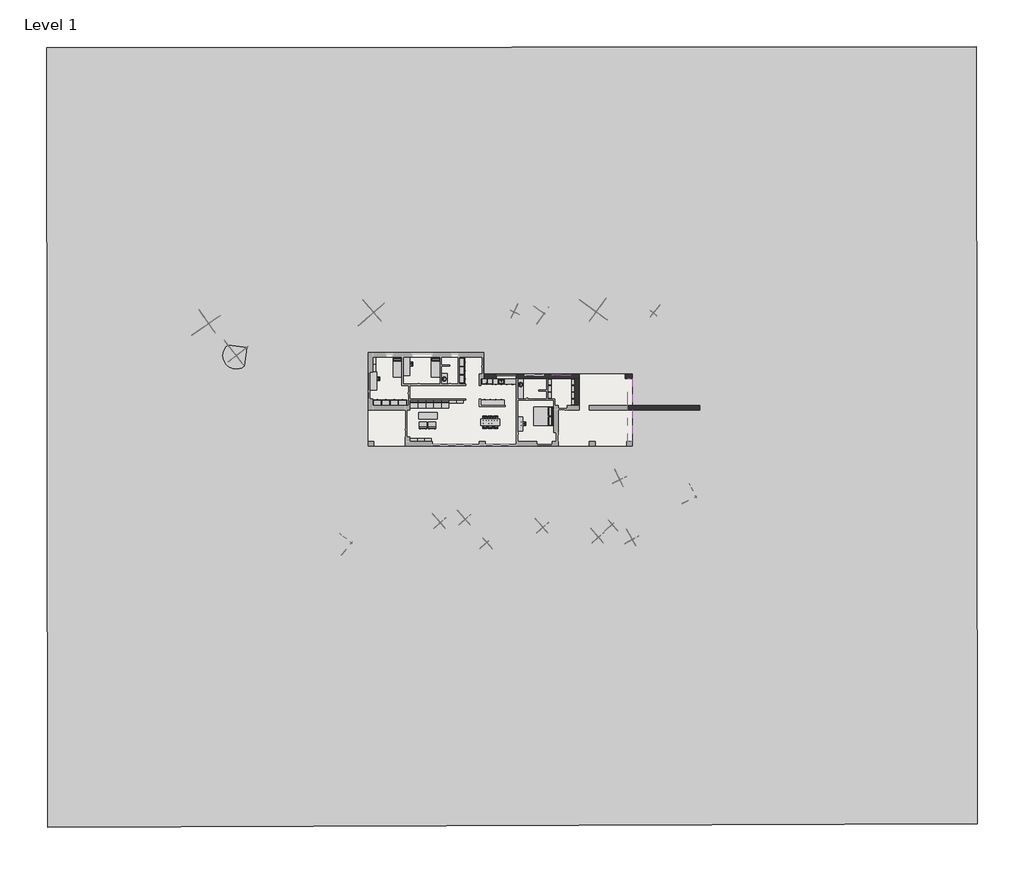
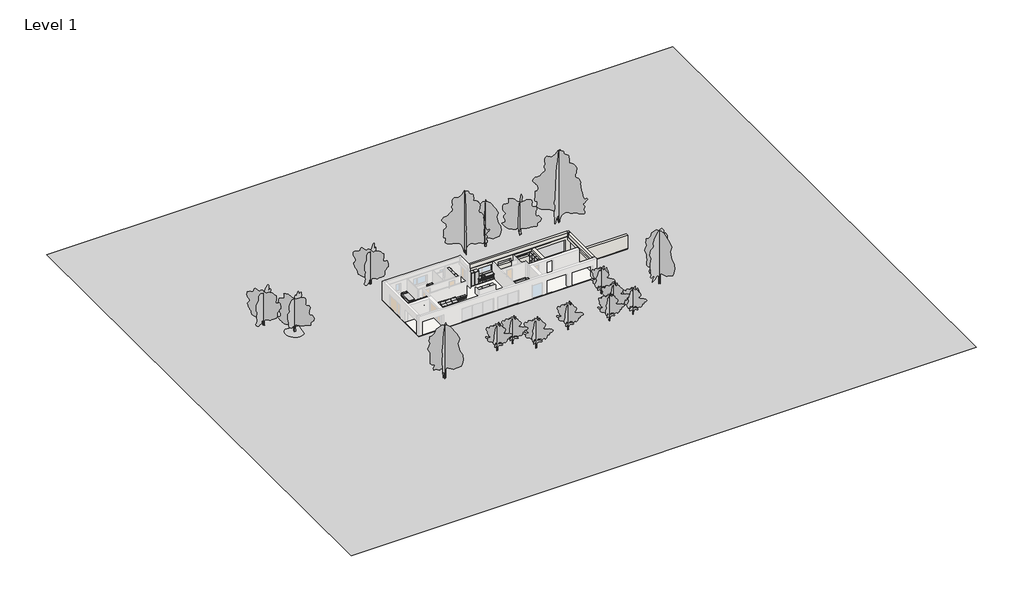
# One storey, part 2 of 2: 65 furniture elements, 17 geographic elements, 4 walls, 3 flow terminals, 1 proxy, 1 slab, 1 window.
"""IFC4 building model written with IfcOpenShell, lengths in millimetres."""

from ifc_helpers import new_model, si_unit, frame, origin, origin_with_axes, place, context, project, spatial, polyline, outline, extrude, faceted_brep, triangles, transform, mapped, element, save
from components import sink_kitchen_single_600_x_535mm_f0c6929d, sink_vanity_round_482_x_482mm_621b7b9b, furniture_c7f23c1d, furniture_56f83323, furniture_641ccf10, furniture_1500_x_500mm_231fc5f9, furniture_1900_x_700mm_ac9d8d07, furniture_2000_x_700mm_040c55c5, furniture_2000_x_700mm_sofa_1e09125b, furniture_700_x_300_x_2200mm_207dd1db, furniture_750_x_300_x_450mm_957a72fb, furniture_750_x_300_x_700mm_660817c4, base_cabinet_4_drawers_600_mm_7743cde6, base_cabinet_4_drawers_600_mm_75a3c887, bed_box_2000_x_2100mm_5f007bae, bed_standard_2100_x_900mm_af0b1266, couch_straight_module_couch_straight_module_fcc397ea, counter_top_counter_top_fbe04672, counter_top_w_sink_counter_top_w_sink_1a22a961, front_plain_front_plain_37046411, front_plain_front_plain_e6c80844, front_plain_front_plain_2_fe2e9d0c, plinth_164mm_a440ec44, plinth_164mm_10810e33, tall_cabinet_double_door_900_mm_12ca9f50, tall_cabinet_single_door_600_mm_6a825e10, vanity_counter_top_w_round_sink_hole_600mm_depth_ba51d22c, vanity_counter_top_w_round_sink_hole_600mm_depth_d806985c, rpc_tree_deciduous_american_beech_6_0_meters_be49fed4, rpc_tree_deciduous_japanese_cherry_4_5_meters_cd2ce576, rpc_tree_deciduous_japanese_cherry_5_meters_cd988bd5, rpc_tree_deciduous_lombardy_poplar_10_5_meters_a89ac7ab, rpc_tree_deciduous_lombardy_poplar_12_2_meters_e292760b, rpc_tree_deciduous_red_ash_2_4b385689, rpc_tree_deciduous_red_ash_7_6_meters_16c8020d, single_light_top_hinged_1920x600_dd11e4f9

model = new_model("IFC4")

# Units and contexts
model_context = context("Model", 3, world=origin())
ifc_project = project(units=[si_unit("LENGTHUNIT", "METRE", prefix="MILLI")], contexts=[model_context])

# Site, building, storey
site = spatial("IfcSite", under=ifc_project)
building = spatial("IfcBuilding", under=site)
storey = spatial("IfcBuildingStorey", under=building, Name="Level 1", Elevation=0.0)

# Proxy
placement = place(None, origin())
element("IfcBuildingElementProxy", 1, Name="Building Element Proxy", at=placement, inside=storey, context=model_context, shape_type="Tessellation", body=[
    triangles([(-34365.77677, 42576.5825684, -100.0000008), (64971.4109619, 42696.1241089, -100.0000008), (65090.9525024, -40383.7164185, -100.0000008), (-34246.2375549, -40742.3317383, -100.0000008)], [[1, 4, 3], [3, 2, 1]], closed=False),
])

# Flow terminals
sink_kitchen_single_600_x_535mm_shape = sink_kitchen_single_600_x_535mm_f0c6929d(model_context)
element("IfcFlowTerminal", 2, ObjectType="Sink Kitchen-Single : 600 x 535mm", at=placement, inside=storey, context=model_context, shape_type="MappedRepresentation", body=[
    mapped(sink_kitchen_single_600_x_535mm_shape, transform((14204.3107594, 6884.4545989, 0.0), x_axis=(1.0, 0.0, 0.0), y_axis=(0.0, 1.0, 0.0), z_axis=(0.0, 0.0, 1.0))),
])
sink_vanity_round_482_x_482mm_shape = sink_vanity_round_482_x_482mm_621b7b9b(model_context)
element("IfcFlowTerminal", 3, ObjectType="Sink Vanity - Round : 482 x 482mm", at=placement, inside=storey, context=model_context, shape_type="MappedRepresentation", body=[
    mapped(sink_vanity_round_482_x_482mm_shape, transform((16358.3901141, 6444.5531607, 0.0), x_axis=(0.0, 1.0, 0.0), y_axis=(-1.0, 0.0, 0.0), z_axis=(0.0, 0.0, 1.0))),
])
element("IfcFlowTerminal", 4, ObjectType="Sink Vanity - Round : 482 x 482mm", at=placement, inside=storey, context=model_context, shape_type="MappedRepresentation", body=[
    mapped(sink_vanity_round_482_x_482mm_shape, transform((8199.0351087, 7049.1198202, 0.0), x_axis=(0.0, 1.0000000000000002, 0.0), y_axis=(-1.0000000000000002, 0.0, 0.0), z_axis=(0.0, 0.0, 1.0))),
])

# Furniture
furniture_shape = furniture_c7f23c1d(model_context)
element("IfcFurniture", 5, ObjectType="Armchair - Barcelona : Armchair - Barcelona", at=placement, inside=storey, context=model_context, shape_type="MappedRepresentation", body=[
    mapped(furniture_shape, transform((5860.0, 1780.0, 0.0), x_axis=(-1.0000000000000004, 0.0, 0.0), y_axis=(0.0, -1.0000000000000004, 0.0), z_axis=(0.0, 0.0, 1.0))),
])
element("IfcFurniture", 6, ObjectType="Armchair - Barcelona : Armchair - Barcelona", at=placement, inside=storey, context=model_context, shape_type="MappedRepresentation", body=[
    mapped(furniture_shape, transform((6820.0, 1780.0, 0.0), x_axis=(-1.0, 0.0, 0.0), y_axis=(0.0, -1.0, 0.0), z_axis=(0.0, 0.0, 1.0))),
])
furniture_2_shape = furniture_56f83323(model_context)
element("IfcFurniture", 7, ObjectType="Chair - Allround : Chair - allround", at=placement, inside=storey, context=model_context, shape_type="MappedRepresentation", body=[
    mapped(furniture_2_shape, transform((13040.0, 2890.0, 0.0), x_axis=(1.0, 0.0, 0.0), y_axis=(0.0, 1.0, 0.0), z_axis=(0.0, 0.0, 1.0))),
])
element("IfcFurniture", 8, ObjectType="Chair - Allround : Chair - allround", at=placement, inside=storey, context=model_context, shape_type="MappedRepresentation", body=[
    mapped(furniture_2_shape, transform((12440.0, 2890.0, 0.0), x_axis=(1.0, 0.0, 0.0), y_axis=(0.0, 1.0, 0.0), z_axis=(0.0, 0.0, 1.0))),
])
element("IfcFurniture", 9, ObjectType="Chair - Allround : Chair - allround", at=placement, inside=storey, context=model_context, shape_type="MappedRepresentation", body=[
    mapped(furniture_2_shape, transform((13640.0, 2190.0, 0.0), x_axis=(-1.0, 0.0, 0.0), y_axis=(0.0, -1.0, 0.0), z_axis=(0.0, 0.0, 1.0))),
])
element("IfcFurniture", 10, ObjectType="Chair - Allround : Chair - allround", at=placement, inside=storey, context=model_context, shape_type="MappedRepresentation", body=[
    mapped(furniture_2_shape, transform((905.0, 7180.0, 0.0), x_axis=(0.0, -1.0000000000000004, 0.0), y_axis=(1.0000000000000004, 0.0, 0.0), z_axis=(0.0, 0.0, 1.0))),
])
element("IfcFurniture", 11, ObjectType="Chair - Allround : Chair - allround", at=placement, inside=storey, context=model_context, shape_type="MappedRepresentation", body=[
    mapped(furniture_2_shape, transform((4460.0, 8740.0, 0.0), x_axis=(0.0, -1.0000000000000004, 0.0), y_axis=(1.0000000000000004, 0.0, 0.0), z_axis=(0.0, 0.0, 1.0))),
])
element("IfcFurniture", 12, ObjectType="Chair - Allround : Chair - allround", at=placement, inside=storey, context=model_context, shape_type="MappedRepresentation", body=[
    mapped(furniture_2_shape, transform((16525.0, 2370.0, 0.0), x_axis=(0.0, -1.0000000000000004, 0.0), y_axis=(1.0000000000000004, 0.0, 0.0), z_axis=(0.0, 0.0, 1.0))),
])
furniture_3_shape = furniture_641ccf10(model_context)
element("IfcFurniture", 13, ObjectType="Chair - Allround : Chair - allround", at=placement, inside=storey, context=model_context, shape_type="MappedRepresentation", body=[
    mapped(furniture_3_shape, transform((13640.0, 2890.0, 0.0), x_axis=(-1.0, 0.0, 0.0), y_axis=(0.0, -1.0, 0.0), z_axis=(0.0, 0.0, 1.0))),
])
element("IfcFurniture", 14, ObjectType="Chair - Allround : Chair - allround", at=placement, inside=storey, context=model_context, shape_type="MappedRepresentation", body=[
    mapped(furniture_3_shape, transform((13040.0, 2190.0, 0.0), x_axis=(1.0, 0.0, 0.0), y_axis=(0.0, 1.0, 0.0), z_axis=(0.0, 0.0, 1.0))),
])
element("IfcFurniture", 15, ObjectType="Chair - Allround : Chair - allround", at=placement, inside=storey, context=model_context, shape_type="MappedRepresentation", body=[
    mapped(furniture_3_shape, transform((12440.0, 2190.0, 0.0), x_axis=(1.0, 0.0, 0.0), y_axis=(0.0, 1.0, 0.0), z_axis=(0.0, 0.0, 1.0))),
])
furniture_1500_x_500mm_shape = furniture_1500_x_500mm_231fc5f9(model_context)
element("IfcFurniture", 16, ObjectType="Table - Allround : 1500 x 500mm", at=placement, inside=storey, context=model_context, shape_type="MappedRepresentation", body=[
    mapped(furniture_1500_x_500mm_shape, transform((16275.0, 2320.0, 0.0), x_axis=(0.0, 1.0000000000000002, 0.0), y_axis=(-1.0000000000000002, 0.0, 0.0), z_axis=(0.0, 0.0, 1.0))),
])
furniture_1900_x_700mm_shape = furniture_1900_x_700mm_ac9d8d07(model_context)
element("IfcFurniture", 17, ObjectType="Table - Allround : 1900 x 700mm", at=placement, inside=storey, context=model_context, shape_type="MappedRepresentation", body=[
    mapped(furniture_1900_x_700mm_shape, transform((555.0, 6930.0, 0.0), x_axis=(0.0, 1.0, 0.0), y_axis=(-1.0, 0.0, 0.0), z_axis=(0.0, 0.0, 1.0))),
])
element("IfcFurniture", 18, ObjectType="Table - Allround : 1900 x 700mm", at=placement, inside=storey, context=model_context, shape_type="MappedRepresentation", body=[
    mapped(furniture_1900_x_700mm_shape, transform((4110.0, 8490.0, 0.0), x_axis=(0.0, 1.0, 0.0), y_axis=(-1.0, 0.0, 0.0), z_axis=(0.0, 0.0, 1.0))),
])
furniture_2000_x_700mm_shape = furniture_2000_x_700mm_040c55c5(model_context)
element("IfcFurniture", 19, ObjectType="Table - Allround : 2000 x 700mm", at=placement, inside=storey, context=model_context, shape_type="MappedRepresentation", body=[
    mapped(furniture_2000_x_700mm_shape, transform((13040.0, 2540.0, 0.0), x_axis=(1.0, 0.0, 0.0), y_axis=(0.0, 1.0, 0.0), z_axis=(0.0, 0.0, 1.0))),
])
furniture_2000_x_700mm_sofa_shape = furniture_2000_x_700mm_sofa_1e09125b(model_context)
element("IfcFurniture", 20, ObjectType="Table - Allround : 2000 x 700mm Sofa", at=placement, inside=storey, context=model_context, shape_type="MappedRepresentation", body=[
    mapped(furniture_2000_x_700mm_sofa_shape, transform((6380.0, 3240.0, 0.0), x_axis=(1.0, 0.0, 0.0), y_axis=(0.0, 1.0, 0.0), z_axis=(0.0, 0.0, 1.0))),
])
furniture_700_x_300_x_2200mm_shape = furniture_700_x_300_x_2200mm_207dd1db(model_context)
element("IfcFurniture", 21, ObjectType="Shelving (Floor) - Allround : 700 x 300 x 2200mm", at=placement, inside=storey, context=model_context, shape_type="MappedRepresentation", body=[
    mapped(furniture_700_x_300_x_2200mm_shape, transform((19085.2, 6810.0, 0.0), x_axis=(0.0, 1.0000000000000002, 0.0), y_axis=(-1.0000000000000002, 0.0, 0.0), z_axis=(0.0, 0.0, 1.0))),
])
element("IfcFurniture", 22, ObjectType="Shelving (Floor) - Allround : 700 x 300 x 2200mm", at=placement, inside=storey, context=model_context, shape_type="MappedRepresentation", body=[
    mapped(furniture_700_x_300_x_2200mm_shape, transform((19085.2, 6110.0, 0.0), x_axis=(0.0, 1.0000000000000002, 0.0), y_axis=(-1.0000000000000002, 0.0, 0.0), z_axis=(0.0, 0.0, 1.0))),
])
element("IfcFurniture", 23, ObjectType="Shelving (Floor) - Allround : 700 x 300 x 2200mm", at=placement, inside=storey, context=model_context, shape_type="MappedRepresentation", body=[
    mapped(furniture_700_x_300_x_2200mm_shape, transform((19085.2, 5410.0, 0.0), x_axis=(0.0, 1.0000000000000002, 0.0), y_axis=(-1.0000000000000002, 0.0, 0.0), z_axis=(0.0, 0.0, 1.0))),
])
element("IfcFurniture", 24, ObjectType="Shelving (Floor) - Allround : 700 x 300 x 2200mm", at=placement, inside=storey, context=model_context, shape_type="MappedRepresentation", body=[
    mapped(furniture_700_x_300_x_2200mm_shape, transform((21585.2, 6810.0, 0.0), x_axis=(0.0, 1.0000000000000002, 0.0), y_axis=(-1.0000000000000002, 0.0, 0.0), z_axis=(0.0, 0.0, 1.0))),
])
element("IfcFurniture", 25, ObjectType="Shelving (Floor) - Allround : 700 x 300 x 2200mm", at=placement, inside=storey, context=model_context, shape_type="MappedRepresentation", body=[
    mapped(furniture_700_x_300_x_2200mm_shape, transform((21585.2, 6110.0, 0.0), x_axis=(0.0, 1.0000000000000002, 0.0), y_axis=(-1.0000000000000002, 0.0, 0.0), z_axis=(0.0, 0.0, 1.0))),
])
element("IfcFurniture", 26, ObjectType="Shelving (Floor) - Allround : 700 x 300 x 2200mm", at=placement, inside=storey, context=model_context, shape_type="MappedRepresentation", body=[
    mapped(furniture_700_x_300_x_2200mm_shape, transform((21585.2, 5410.0, 0.0), x_axis=(0.0, 1.0000000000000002, 0.0), y_axis=(-1.0000000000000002, 0.0, 0.0), z_axis=(0.0, 0.0, 1.0))),
])
element("IfcFurniture", 27, ObjectType="Shelving (Floor) - Allround : 700 x 300 x 2200mm", at=placement, inside=storey, context=model_context, shape_type="MappedRepresentation", body=[
    mapped(furniture_700_x_300_x_2200mm_shape, transform((21585.2, 4710.0, 0.0), x_axis=(0.0, 1.0000000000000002, 0.0), y_axis=(-1.0000000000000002, 0.0, 0.0), z_axis=(0.0, 0.0, 1.0))),
])
furniture_750_x_300_x_450mm_shape = furniture_750_x_300_x_450mm_957a72fb(model_context)
element("IfcFurniture", 28, ObjectType="Shelving (Floor) - Allround : 750 x 300 x 450mm", at=placement, inside=storey, context=model_context, shape_type="MappedRepresentation", body=[
    mapped(furniture_750_x_300_x_450mm_shape, transform((9045.0, 5034.8, 0.0), x_axis=(1.0, 0.0, 0.0), y_axis=(0.0, 1.0, 0.0), z_axis=(0.0, 0.0, 1.0))),
])
element("IfcFurniture", 29, ObjectType="Shelving (Floor) - Allround : 750 x 300 x 450mm", at=placement, inside=storey, context=model_context, shape_type="MappedRepresentation", body=[
    mapped(furniture_750_x_300_x_450mm_shape, transform((9795.0, 5034.8, 0.0), x_axis=(1.0, 0.0, 0.0), y_axis=(0.0, 1.0, 0.0), z_axis=(0.0, 0.0, 1.0))),
])
element("IfcFurniture", 30, ObjectType="Shelving (Floor) - Allround : 750 x 300 x 450mm", at=placement, inside=storey, context=model_context, shape_type="MappedRepresentation", body=[
    mapped(furniture_750_x_300_x_450mm_shape, transform((4855.0, 974.8, 0.0), x_axis=(1.0, 0.0, 0.0), y_axis=(0.0, 1.0, 0.0), z_axis=(0.0, 0.0, 1.0))),
])
element("IfcFurniture", 31, ObjectType="Shelving (Floor) - Allround : 750 x 300 x 450mm", at=placement, inside=storey, context=model_context, shape_type="MappedRepresentation", body=[
    mapped(furniture_750_x_300_x_450mm_shape, transform((5605.0, 974.8, 0.0), x_axis=(1.0, 0.0, 0.0), y_axis=(0.0, 1.0, 0.0), z_axis=(0.0, 0.0, 1.0))),
])
element("IfcFurniture", 32, ObjectType="Shelving (Floor) - Allround : 750 x 300 x 450mm", at=placement, inside=storey, context=model_context, shape_type="MappedRepresentation", body=[
    mapped(furniture_750_x_300_x_450mm_shape, transform((6355.0, 974.8, 0.0), x_axis=(1.0, 0.0, 0.0), y_axis=(0.0, 1.0, 0.0), z_axis=(0.0, 0.0, 1.0))),
])
furniture_750_x_300_x_700mm_shape = furniture_750_x_300_x_700mm_660817c4(model_context)
element("IfcFurniture", 33, ObjectType="Shelving (Floor) - Allround : 750 x 300 x 700mm", at=placement, inside=storey, context=model_context, shape_type="MappedRepresentation", body=[
    mapped(furniture_750_x_300_x_700mm_shape, transform((365.2, 9065.0, 0.0), x_axis=(0.0, 1.0000000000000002, 0.0), y_axis=(-1.0000000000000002, 0.0, 0.0), z_axis=(0.0, 0.0, 1.0))),
])
element("IfcFurniture", 34, ObjectType="Shelving (Floor) - Allround : 750 x 300 x 700mm", at=placement, inside=storey, context=model_context, shape_type="MappedRepresentation", body=[
    mapped(furniture_750_x_300_x_700mm_shape, transform((365.2, 8315.0, 0.0), x_axis=(0.0, 1.0000000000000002, 0.0), y_axis=(-1.0000000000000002, 0.0, 0.0), z_axis=(0.0, 0.0, 1.0))),
])
base_cabinet_4_drawers_600_mm_shape = base_cabinet_4_drawers_600_mm_7743cde6(model_context)
element("IfcFurniture", 35, ObjectType="Base Cabinet - 4 Drawers : 600 mm", at=placement, inside=storey, context=model_context, shape_type="MappedRepresentation", body=[
    mapped(base_cabinet_4_drawers_600_mm_shape, transform((13575.2996736, 7200.0, 0.0), x_axis=(1.0, 0.0, 0.0), y_axis=(0.0, 1.0, 0.0), z_axis=(0.0, 0.0, 1.0))),
])
element("IfcFurniture", 36, ObjectType="Base Cabinet - 4 Drawers : 600 mm", at=placement, inside=storey, context=model_context, shape_type="MappedRepresentation", body=[
    mapped(base_cabinet_4_drawers_600_mm_shape, transform((14775.2996736, 7200.0, 0.0), x_axis=(1.0, 0.0, 0.0), y_axis=(0.0, 1.0, 0.0), z_axis=(0.0, 0.0, 1.0))),
])
element("IfcFurniture", 37, ObjectType="Base Cabinet - 4 Drawers : 600 mm", at=placement, inside=storey, context=model_context, shape_type="MappedRepresentation", body=[
    mapped(base_cabinet_4_drawers_600_mm_shape, transform((15375.2996736, 7200.0, 0.0), x_axis=(1.0, 0.0, 0.0), y_axis=(0.0, 1.0, 0.0), z_axis=(0.0, 0.0, 1.0))),
])
element("IfcFurniture", 38, ObjectType="Base Cabinet - 4 Drawers : 600 mm", at=placement, inside=storey, context=model_context, shape_type="MappedRepresentation", body=[
    mapped(base_cabinet_4_drawers_600_mm_shape, transform((12464.7003264, 4320.0, 0.0), x_axis=(-1.0, 0.0, 0.0), y_axis=(0.0, -1.0, 0.0), z_axis=(0.0, 0.0, 1.0))),
])
element("IfcFurniture", 39, ObjectType="Base Cabinet - 4 Drawers : 600 mm", at=placement, inside=storey, context=model_context, shape_type="MappedRepresentation", body=[
    mapped(base_cabinet_4_drawers_600_mm_shape, transform((13064.7003264, 4320.0, 0.0), x_axis=(-1.0, 0.0, 0.0), y_axis=(0.0, -1.0, 0.0), z_axis=(0.0, 0.0, 1.0))),
])
element("IfcFurniture", 40, ObjectType="Base Cabinet - 4 Drawers : 600 mm", at=placement, inside=storey, context=model_context, shape_type="MappedRepresentation", body=[
    mapped(base_cabinet_4_drawers_600_mm_shape, transform((13664.7003264, 4320.0, 0.0), x_axis=(-1.0, 0.0, 0.0), y_axis=(0.0, -1.0, 0.0), z_axis=(0.0, 0.0, 1.0))),
])
element("IfcFurniture", 41, ObjectType="Base Cabinet - 4 Drawers : 600 mm", at=placement, inside=storey, context=model_context, shape_type="MappedRepresentation", body=[
    mapped(base_cabinet_4_drawers_600_mm_shape, transform((14264.7003264, 4320.0, 0.0), x_axis=(-1.0, 0.0, 0.0), y_axis=(0.0, -1.0, 0.0), z_axis=(0.0, 0.0, 1.0))),
])
base_cabinet_4_drawers_600_mm_2_shape = base_cabinet_4_drawers_600_mm_75a3c887(model_context)
element("IfcFurniture", 42, ObjectType="Base Cabinet - 4 Drawers : 600 mm", at=placement, inside=storey, context=model_context, shape_type="MappedRepresentation", body=[
    mapped(base_cabinet_4_drawers_600_mm_2_shape, transform((14175.2996736, 7200.0, 0.0), x_axis=(1.0, 0.0, 0.0), y_axis=(0.0, 1.0, 0.0), z_axis=(0.0, 0.0, 1.0))),
])
bed_box_2000_x_2100mm_shape = bed_box_2000_x_2100mm_5f007bae(model_context)
element("IfcFurniture", 43, ObjectType="Bed - Box : 2000 x 2100mm", at=placement, inside=storey, context=model_context, shape_type="MappedRepresentation", body=[
    mapped(bed_box_2000_x_2100mm_shape, transform((18944.4295082, 3509.152459, 0.0), x_axis=(0.0, -1.0, 0.0), y_axis=(1.0, 0.0, 0.0), z_axis=(0.0, 0.0, 1.0))),
])
bed_standard_2100_x_900mm_shape = bed_standard_2100_x_900mm_af0b1266(model_context)
element("IfcFurniture", 44, ObjectType="Bed - Standard : 2100 x 900mm", at=placement, inside=storey, context=model_context, shape_type="MappedRepresentation", body=[
    mapped(bed_standard_2100_x_900mm_shape, transform((2838.5114754, 8435.595082, 0.0), x_axis=(1.0, 0.0, 0.0), y_axis=(0.0, 1.0, 0.0), z_axis=(0.0, 0.0, 1.0))),
])
element("IfcFurniture", 45, ObjectType="Bed - Standard : 2100 x 900mm", at=placement, inside=storey, context=model_context, shape_type="MappedRepresentation", body=[
    mapped(bed_standard_2100_x_900mm_shape, transform((6918.5114754, 8435.595082, 0.0), x_axis=(1.0, 0.0, 0.0), y_axis=(0.0, 1.0, 0.0), z_axis=(0.0, 0.0, 1.0))),
])
couch_straight_module_couch_straight_module_shape = couch_straight_module_couch_straight_module_fcc397ea(model_context)
element("IfcFurniture", 46, ObjectType="Couch - Straight Module : Couch straight module", at=placement, inside=storey, context=model_context, shape_type="MappedRepresentation", body=[
    mapped(couch_straight_module_couch_straight_module_shape, transform((4480.0, 4050.0, 0.0), x_axis=(1.0, 0.0, 0.0), y_axis=(0.0, 1.0, 0.0), z_axis=(0.0, 0.0, 1.0))),
])
element("IfcFurniture", 47, ObjectType="Couch - Straight Module : Couch straight module", at=placement, inside=storey, context=model_context, shape_type="MappedRepresentation", body=[
    mapped(couch_straight_module_couch_straight_module_shape, transform((5310.0, 4050.0, 0.0), x_axis=(1.0, 0.0, 0.0), y_axis=(0.0, 1.0, 0.0), z_axis=(0.0, 0.0, 1.0))),
])
element("IfcFurniture", 48, ObjectType="Couch - Straight Module : Couch straight module", at=placement, inside=storey, context=model_context, shape_type="MappedRepresentation", body=[
    mapped(couch_straight_module_couch_straight_module_shape, transform((6140.0, 4050.0, 0.0), x_axis=(1.0, 0.0, 0.0), y_axis=(0.0, 1.0, 0.0), z_axis=(0.0, 0.0, 1.0))),
])
element("IfcFurniture", 49, ObjectType="Couch - Straight Module : Couch straight module", at=placement, inside=storey, context=model_context, shape_type="MappedRepresentation", body=[
    mapped(couch_straight_module_couch_straight_module_shape, transform((6970.0, 4050.0, 0.0), x_axis=(1.0, 0.0, 0.0), y_axis=(0.0, 1.0, 0.0), z_axis=(0.0, 0.0, 1.0))),
])
element("IfcFurniture", 50, ObjectType="Couch - Straight Module : Couch straight module", at=placement, inside=storey, context=model_context, shape_type="MappedRepresentation", body=[
    mapped(couch_straight_module_couch_straight_module_shape, transform((7800.0, 4050.0, 0.0), x_axis=(1.0, 0.0, 0.0), y_axis=(0.0, 1.0, 0.0), z_axis=(0.0, 0.0, 1.0))),
])
counter_top_counter_top_shape = counter_top_counter_top_fbe04672(model_context)
element("IfcFurniture", 51, ObjectType="Counter Top : Counter Top", at=placement, inside=storey, context=model_context, shape_type="MappedRepresentation", body=[
    mapped(counter_top_counter_top_shape, transform((12555.2996736, 4920.0, 0.0), x_axis=(1.0, 0.0, 0.0), y_axis=(0.0, 1.0, 0.0), z_axis=(0.0, 0.0, 1.0))),
])
counter_top_w_sink_counter_top_w_sink_shape = counter_top_w_sink_counter_top_w_sink_1a22a961(model_context)
element("IfcFurniture", 52, ObjectType="Counter Top w Sink : Counter Top w Sink", at=placement, inside=storey, context=model_context, shape_type="MappedRepresentation", body=[
    mapped(counter_top_w_sink_counter_top_w_sink_shape, transform((13875.2996736, 7200.0, 0.0), x_axis=(1.0, 0.0, 0.0), y_axis=(0.0, 1.0, 0.0), z_axis=(0.0, 0.0, 1.0))),
])
front_plain_front_plain_shape = front_plain_front_plain_37046411(model_context)
element("IfcFurniture", 53, ObjectType="Front - Plain : Front - Plain", at=placement, inside=storey, context=model_context, shape_type="MappedRepresentation", body=[
    mapped(front_plain_front_plain_shape, transform((15783.0, 6711.0, 161.0), x_axis=(1.0, 0.0, 0.0), y_axis=(0.0, 1.0, 0.0), z_axis=(0.0, 0.0, 1.0))),
])
element("IfcFurniture", 54, ObjectType="Front - Plain : Front - Plain", at=placement, inside=storey, context=model_context, shape_type="MappedRepresentation", body=[
    mapped(front_plain_front_plain_shape, transform((12057.0, 4809.0, 161.0), x_axis=(-1.0, 0.0, 0.0), y_axis=(0.0, -1.0, 0.0), z_axis=(0.0, 0.0, 1.0))),
])
front_plain_front_plain_2_shape = front_plain_front_plain_e6c80844(model_context)
element("IfcFurniture", 55, ObjectType="Front - Plain : Front - Plain", at=placement, inside=storey, context=model_context, shape_type="MappedRepresentation", body=[
    mapped(front_plain_front_plain_2_shape, transform((12657.0, 6711.0, 161.0), x_axis=(-1.0, 0.0, 0.0), y_axis=(0.0, -1.0, 0.0), z_axis=(0.0, 0.0, 1.0))),
])
front_plain_front_plain_2_2_shape = front_plain_front_plain_2_fe2e9d0c(model_context)
element("IfcFurniture", 56, ObjectType="Front - Plain : Front - Plain 2", at=placement, inside=storey, context=model_context, shape_type="MappedRepresentation", body=[
    mapped(front_plain_front_plain_2_2_shape, transform((12057.0, 6711.0, 161.0), x_axis=(-1.0, 0.0, 0.0), y_axis=(0.0, -1.0, 0.0), z_axis=(0.0, 0.0, 1.0))),
])
plinth_164mm_shape = plinth_164mm_a440ec44(model_context)
element("IfcFurniture", 57, ObjectType="Plinth : 164mm", at=placement, inside=storey, context=model_context, shape_type="MappedRepresentation", body=[
    mapped(plinth_164mm_shape, transform((13875.2996736, 7200.0, 0.0), x_axis=(1.0, 0.0, 0.0), y_axis=(0.0, 1.0, 0.0), z_axis=(0.0, 0.0, 1.0))),
])
plinth_164mm_2_shape = plinth_164mm_10810e33(model_context)
element("IfcFurniture", 58, ObjectType="Plinth : 164mm", at=placement, inside=storey, context=model_context, shape_type="MappedRepresentation", body=[
    mapped(plinth_164mm_2_shape, transform((13304.7003264, 4320.0, 0.0), x_axis=(-1.0000000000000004, 0.0, 0.0), y_axis=(0.0, -1.0000000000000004, 0.0), z_axis=(0.0, 0.0, 1.0))),
])
tall_cabinet_double_door_900_mm_shape = tall_cabinet_double_door_900_mm_12ca9f50(model_context)
element("IfcFurniture", 59, ObjectType="Tall Cabinet - Double door : 900 mm", at=placement, inside=storey, context=model_context, shape_type="MappedRepresentation", body=[
    mapped(tall_cabinet_double_door_900_mm_shape, transform((1014.7003264, 4320.0, 0.0), x_axis=(-1.0000000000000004, 0.0, 0.0), y_axis=(0.0, -1.0000000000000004, 0.0), z_axis=(0.0, 0.0, 1.0))),
])
element("IfcFurniture", 60, ObjectType="Tall Cabinet - Double door : 900 mm", at=placement, inside=storey, context=model_context, shape_type="MappedRepresentation", body=[
    mapped(tall_cabinet_double_door_900_mm_shape, transform((1914.7003264, 4320.0, 0.0), x_axis=(-1.0000000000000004, 0.0, 0.0), y_axis=(0.0, -1.0000000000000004, 0.0), z_axis=(0.0, 0.0, 1.0))),
])
element("IfcFurniture", 61, ObjectType="Tall Cabinet - Double door : 900 mm", at=placement, inside=storey, context=model_context, shape_type="MappedRepresentation", body=[
    mapped(tall_cabinet_double_door_900_mm_shape, transform((2814.7003264, 4320.0, 0.0), x_axis=(-1.0000000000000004, 0.0, 0.0), y_axis=(0.0, -1.0000000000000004, 0.0), z_axis=(0.0, 0.0, 1.0))),
])
element("IfcFurniture", 62, ObjectType="Tall Cabinet - Double door : 900 mm", at=placement, inside=storey, context=model_context, shape_type="MappedRepresentation", body=[
    mapped(tall_cabinet_double_door_900_mm_shape, transform((3714.7003264, 4320.0, 0.0), x_axis=(-1.0000000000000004, 0.0, 0.0), y_axis=(0.0, -1.0000000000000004, 0.0), z_axis=(0.0, 0.0, 1.0))),
])
element("IfcFurniture", 63, ObjectType="Tall Cabinet - Double door : 900 mm", at=placement, inside=storey, context=model_context, shape_type="MappedRepresentation", body=[
    mapped(tall_cabinet_double_door_900_mm_shape, transform((9720.0, 8895.2996736, 0.0), x_axis=(0.0, 1.0000000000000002, 0.0), y_axis=(-1.0000000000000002, 0.0, 0.0), z_axis=(0.0, 0.0, 1.0))),
])
element("IfcFurniture", 64, ObjectType="Tall Cabinet - Double door : 900 mm", at=placement, inside=storey, context=model_context, shape_type="MappedRepresentation", body=[
    mapped(tall_cabinet_double_door_900_mm_shape, transform((9720.0, 7995.2996736, 0.0), x_axis=(0.0, 1.0000000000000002, 0.0), y_axis=(-1.0000000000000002, 0.0, 0.0), z_axis=(0.0, 0.0, 1.0))),
])
element("IfcFurniture", 65, ObjectType="Tall Cabinet - Double door : 900 mm", at=placement, inside=storey, context=model_context, shape_type="MappedRepresentation", body=[
    mapped(tall_cabinet_double_door_900_mm_shape, transform((9720.0, 7095.2996736, 0.0), x_axis=(0.0, 1.0000000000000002, 0.0), y_axis=(-1.0000000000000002, 0.0, 0.0), z_axis=(0.0, 0.0, 1.0))),
])
tall_cabinet_single_door_600_mm_shape = tall_cabinet_single_door_600_mm_6a825e10(model_context)
element("IfcFurniture", 66, ObjectType="Tall Cabinet - Single door : 600 mm", at=placement, inside=storey, context=model_context, shape_type="MappedRepresentation", body=[
    mapped(tall_cabinet_single_door_600_mm_shape, transform((12375.2996736, 7200.0, 0.0), x_axis=(1.0, 0.0, 0.0), y_axis=(0.0, 1.0, 0.0), z_axis=(0.0, 0.0, 1.0))),
])
element("IfcFurniture", 67, ObjectType="Tall Cabinet - Single door : 600 mm", at=placement, inside=storey, context=model_context, shape_type="MappedRepresentation", body=[
    mapped(tall_cabinet_single_door_600_mm_shape, transform((12975.2996736, 7200.0, 0.0), x_axis=(1.0, 0.0, 0.0), y_axis=(0.0, 1.0, 0.0), z_axis=(0.0, 0.0, 1.0))),
])
vanity_counter_top_w_round_sink_hole_600mm_depth_shape = vanity_counter_top_w_round_sink_hole_600mm_depth_ba51d22c(model_context)
element("IfcFurniture", 68, ObjectType="Vanity Counter Top w. Round Sink Hole : 600mm Depth", at=placement, inside=storey, context=model_context, shape_type="MappedRepresentation", body=[
    mapped(vanity_counter_top_w_round_sink_hole_600mm_depth_shape, transform((15960.0, 6367.4622951, 0.0), x_axis=(0.0, 1.0000000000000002, 0.0), y_axis=(-1.0000000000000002, 0.0, 0.0), z_axis=(0.0, 0.0, 1.0))),
])
vanity_counter_top_w_round_sink_hole_600mm_depth_2_shape = vanity_counter_top_w_round_sink_hole_600mm_depth_d806985c(model_context)
element("IfcFurniture", 69, ObjectType="Vanity Counter Top w. Round Sink Hole : 600mm Depth", at=placement, inside=storey, context=model_context, shape_type="MappedRepresentation", body=[
    mapped(vanity_counter_top_w_round_sink_hole_600mm_depth_2_shape, transform((7800.0, 7927.4622951, 0.0), x_axis=(0.0, 1.0000000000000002, 0.0), y_axis=(-1.0000000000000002, 0.0, 0.0), z_axis=(0.0, 0.0, 1.0))),
])

# Geographic elements
rpc_tree_deciduous_american_beech_6_0_meters_shape = rpc_tree_deciduous_american_beech_6_0_meters_be49fed4(model_context)
element("IfcGeographicElement", 70, ObjectType="RPC Tree - Deciduous : American Beech - 6.0 Meters", at=placement, inside=storey, context=model_context, shape_type="MappedRepresentation", body=[
    mapped(rpc_tree_deciduous_american_beech_6_0_meters_shape, transform((24356.1071766, 14328.1056074, -200.0), x_axis=(0.8091201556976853, -0.5876432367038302, 0.0), y_axis=(0.5876432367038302, 0.8091201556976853, 0.0), z_axis=(0.0, 0.0, 1.0))),
])
element("IfcGeographicElement", 71, ObjectType="RPC Tree - Deciduous : American Beech - 6.0 Meters", at=placement, inside=storey, context=model_context, shape_type="MappedRepresentation", body=[
    mapped(rpc_tree_deciduous_american_beech_6_0_meters_shape, transform((-14098.0785362, 9648.3486516, -100.0), x_axis=(0.6156614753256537, -0.7880107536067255, 0.0), y_axis=(0.7880107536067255, 0.6156614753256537, 0.0), z_axis=(0.0, 0.0, 1.0))),
])
element("IfcGeographicElement", 72, ObjectType="RPC Tree - Deciduous : American Beech - 6.0 Meters", at=placement, inside=storey, context=model_context, shape_type="MappedRepresentation", body=[
    mapped(rpc_tree_deciduous_american_beech_6_0_meters_shape, transform((-17050.6335171, 13084.7262767, -200.0), x_axis=(0.819152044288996, 0.5735764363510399, 0.0), y_axis=(-0.5735764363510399, 0.819152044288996, 0.0), z_axis=(0.0, 0.0, 1.0))),
])
element("IfcGeographicElement", 73, ObjectType="RPC Tree - Deciduous : American Beech - 6.0 Meters", at=placement, inside=storey, context=model_context, shape_type="MappedRepresentation", body=[
    mapped(rpc_tree_deciduous_american_beech_6_0_meters_shape, transform((585.0177089, 14270.8978992, -200.0), x_axis=(0.7547095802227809, 0.656059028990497, 0.0), y_axis=(-0.656059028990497, 0.7547095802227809, 0.0), z_axis=(0.0, 0.0, 1.0))),
])
rpc_tree_deciduous_japanese_cherry_4_5_meters_shape = rpc_tree_deciduous_japanese_cherry_4_5_meters_cd2ce576(model_context)
element("IfcGeographicElement", 74, ObjectType="RPC Tree - Deciduous : Japanese Cherry - 4.5 Meters", at=placement, inside=storey, context=model_context, shape_type="MappedRepresentation", body=[
    mapped(rpc_tree_deciduous_japanese_cherry_4_5_meters_shape, transform((28208.8811591, -10005.5743088, -200.0), x_axis=(0.8746197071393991, 0.48480962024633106, 0.0), y_axis=(-0.48480962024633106, 0.8746197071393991, 0.0), z_axis=(0.0, 0.0, 1.0))),
])
element("IfcGeographicElement", 75, ObjectType="RPC Tree - Deciduous : Japanese Cherry - 4.5 Meters", at=placement, inside=storey, context=model_context, shape_type="MappedRepresentation", body=[
    mapped(rpc_tree_deciduous_japanese_cherry_4_5_meters_shape, transform((24600.0, -9758.3581553, -200.0), x_axis=(0.7547095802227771, 0.6560590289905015, 0.0), y_axis=(-0.6560590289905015, 0.7547095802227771, 0.0), z_axis=(0.0, 0.0, 1.0))),
])
element("IfcGeographicElement", 76, ObjectType="RPC Tree - Deciduous : Japanese Cherry - 4.5 Meters", at=placement, inside=storey, context=model_context, shape_type="MappedRepresentation", body=[
    mapped(rpc_tree_deciduous_japanese_cherry_4_5_meters_shape, transform((26879.1076462, -3615.5063081, -200.0), x_axis=(0.89879404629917, 0.43837114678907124, 0.0), y_axis=(-0.43837114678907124, 0.89879404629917, 0.0), z_axis=(0.0, 0.0, 1.0))),
])
element("IfcGeographicElement", 77, ObjectType="RPC Tree - Deciduous : Japanese Cherry - 4.5 Meters", at=placement, inside=storey, context=model_context, shape_type="MappedRepresentation", body=[
    mapped(rpc_tree_deciduous_japanese_cherry_4_5_meters_shape, transform((18663.2861781, -8711.5553318, -200.0), x_axis=(0.7547095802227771, 0.6560590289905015, 0.0), y_axis=(-0.6560590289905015, 0.7547095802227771, 0.0), z_axis=(0.0, 0.0, 1.0))),
])
element("IfcGeographicElement", 78, ObjectType="RPC Tree - Deciduous : Japanese Cherry - 4.5 Meters", at=placement, inside=storey, context=model_context, shape_type="MappedRepresentation", body=[
    mapped(rpc_tree_deciduous_japanese_cherry_4_5_meters_shape, transform((7703.8198464, -8206.2853176, -200.0), x_axis=(0.7547095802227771, 0.6560590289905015, 0.0), y_axis=(-0.6560590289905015, 0.7547095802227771, 0.0), z_axis=(0.0, 0.0, 1.0))),
])
element("IfcGeographicElement", 79, ObjectType="RPC Tree - Deciduous : Japanese Cherry - 4.5 Meters", at=placement, inside=storey, context=model_context, shape_type="MappedRepresentation", body=[
    mapped(rpc_tree_deciduous_japanese_cherry_4_5_meters_shape, transform((10363.2861781, -7842.0174119, -200.0), x_axis=(0.7547095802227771, 0.6560590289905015, 0.0), y_axis=(-0.6560590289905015, 0.7547095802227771, 0.0), z_axis=(0.0, 0.0, 1.0))),
])
rpc_tree_deciduous_japanese_cherry_5_meters_shape = rpc_tree_deciduous_japanese_cherry_5_meters_cd988bd5(model_context)
element("IfcGeographicElement", 80, ObjectType="RPC Tree - Deciduous : Japanese Cherry - 5 Meters", at=placement, inside=storey, context=model_context, shape_type="MappedRepresentation", body=[
    mapped(rpc_tree_deciduous_japanese_cherry_5_meters_shape, transform((26062.7074032, -8394.3614352, -200.0), x_axis=(0.7547095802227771, 0.6560590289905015, 0.0), y_axis=(-0.6560590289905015, 0.7547095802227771, 0.0), z_axis=(0.0, 0.0, 1.0))),
])
element("IfcGeographicElement", 81, ObjectType="RPC Tree - Deciduous : Japanese Cherry - 5 Meters", at=placement, inside=storey, context=model_context, shape_type="MappedRepresentation", body=[
    mapped(rpc_tree_deciduous_japanese_cherry_5_meters_shape, transform((12674.5460551, -10316.2334114, -200.0), x_axis=(0.7547095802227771, 0.6560590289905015, 0.0), y_axis=(-0.6560590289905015, 0.7547095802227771, 0.0), z_axis=(0.0, 0.0, 1.0))),
])
rpc_tree_deciduous_lombardy_poplar_10_5_meters_shape = rpc_tree_deciduous_lombardy_poplar_10_5_meters_a89ac7ab(model_context)
element("IfcGeographicElement", 82, ObjectType="RPC Tree - Deciduous : Lombardy Poplar - 10,5 Meters", at=placement, inside=storey, context=model_context, shape_type="MappedRepresentation", body=[
    mapped(rpc_tree_deciduous_lombardy_poplar_10_5_meters_shape, transform((15567.200656, 14317.6703771, -200.0), x_axis=(0.43837114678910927, 0.8987940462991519, 0.0), y_axis=(-0.8987940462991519, 0.43837114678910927, 0.0), z_axis=(0.0, 0.0, 1.0))),
])
rpc_tree_deciduous_lombardy_poplar_12_2_meters_shape = rpc_tree_deciduous_lombardy_poplar_12_2_meters_e292760b(model_context)
element("IfcGeographicElement", 83, ObjectType="RPC Tree - Deciduous : Lombardy Poplar - 12.2 Meters", at=placement, inside=storey, context=model_context, shape_type="MappedRepresentation", body=[
    mapped(rpc_tree_deciduous_lombardy_poplar_12_2_meters_shape, transform((30467.200656, 14217.6703771, -200.0), x_axis=(0.6427876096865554, 0.7660444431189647, 0.0), y_axis=(-0.7660444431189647, 0.6427876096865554, 0.0), z_axis=(0.0, 0.0, 1.0))),
])
rpc_tree_deciduous_red_ash_2_shape = rpc_tree_deciduous_red_ash_2_4b385689(model_context)
element("IfcGeographicElement", 84, ObjectType="RPC Tree - Deciduous : Red Ash - 2", at=placement, inside=storey, context=model_context, shape_type="MappedRepresentation", body=[
    mapped(rpc_tree_deciduous_red_ash_2_shape, transform((35015.8984331, -5443.9964463, -200.0), x_axis=(0.89879404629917, 0.43837114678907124, 0.0), y_axis=(-0.43837114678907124, 0.89879404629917, 0.0), z_axis=(0.0, 0.0, 1.0))),
])
element("IfcGeographicElement", 85, ObjectType="RPC Tree - Deciduous : Red Ash - 2", at=placement, inside=storey, context=model_context, shape_type="MappedRepresentation", body=[
    mapped(rpc_tree_deciduous_red_ash_2_shape, transform((-1805.2945775, -10361.9708877, -200.0), x_axis=(0.6293203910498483, 0.7771459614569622, 0.0), y_axis=(-0.7771459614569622, 0.6293203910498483, 0.0), z_axis=(0.0, 0.0, 1.0))),
])
rpc_tree_deciduous_red_ash_7_6_meters_shape = rpc_tree_deciduous_red_ash_7_6_meters_16c8020d(model_context)
element("IfcGeographicElement", 86, ObjectType="RPC Tree - Deciduous : Red Ash - 7.6 Meters", at=placement, inside=storey, context=model_context, shape_type="MappedRepresentation", body=[
    mapped(rpc_tree_deciduous_red_ash_7_6_meters_shape, transform((18799.9139692, 14170.9696533, -200.0), x_axis=(0.5735764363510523, 0.8191520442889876, 0.0), y_axis=(-0.8191520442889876, 0.5735764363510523, 0.0), z_axis=(0.0, 0.0, 1.0))),
])

# Slab
element("IfcSlab", 87, ObjectType="Generic - 100mm (Ground)", at=placement, inside=storey, context=model_context, shape_type="SweptSolid", body=[
    extrude(outline(polyline([(12360.0, 9960.0), (12360.0, 7680.0), (28200.0, 7680.0), (28200.0, 4320.0), (35400.0, 4320.0), (35400.0, 3840.0), (28200.0, 3840.0), (28200.0, 0.0), (0.0, 0.0), (0.0, 9960.0), (12360.0, 9960.0)])), frame((0.0, 0.0, -100.0), z_axis=(0.0, 0.0, 1.0), x_axis=(1.0, 0.0, 0.0)), (0.0, 0.0, 1.0), 100.0),
])

# Walls
element("IfcWall", 88, ObjectType="Generic - 480mm (Exterior)", at=placement, inside=storey, context=model_context, shape_type="Brep", body=[
    faceted_brep([(12360.0, 7200.0, 0.0), (15840.0, 7200.0, 0.0), (15960.0, 7200.0, 0.0), (19080.0, 7200.0, 0.0), (19200.0, 7200.0, 0.0), (22080.0, 7200.0, 0.0), (22560.0, 7200.0, 0.0), (22560.0, 7200.0, 2200.0), (27480.0, 7200.0, 2200.0), (27480.0, 7200.0, 0.0), (28200.0, 7200.0, 0.0), (28200.0, 7200.0, 2200.0), (28200.0, 7200.0, 3200.0), (27840.0, 7200.0, 3200.0), (27840.0, 7200.0, 2600.0), (27720.0, 7200.0, 2600.0), (22560.0, 7200.0, 2600.0), (22080.0, 7200.0, 2600.0), (19200.0, 7200.0, 2600.0), (19080.0, 7200.0, 2600.0), (15960.0, 7200.0, 2600.0), (15840.0, 7200.0, 2600.0), (12360.0, 7200.0, 2600.0), (19680.0, 7200.0, 1600.0), (19680.0, 7200.0, 2200.0), (21600.0, 7200.0, 2200.0), (21600.0, 7200.0, 1600.0), (16800.0, 7200.0, 1600.0), (16800.0, 7200.0, 2200.0), (18720.0, 7200.0, 2200.0), (18720.0, 7200.0, 1600.0), (15840.0, 7200.0, 1000.0), (13680.0, 7200.0, 1000.0), (13680.0, 7200.0, 2200.0), (15840.0, 7200.0, 2200.0), (12360.0, 7680.0, 0.0), (12360.0, 7680.0, 2200.0), (12360.0, 7680.0, 3200.0), (27840.0, 7680.0, 3200.0), (28200.0, 7680.0, 3200.0), (28200.0, 7680.0, 0.0), (27480.0, 7680.0, 0.0), (27480.0, 7680.0, 2200.0), (22560.0, 7680.0, 2200.0), (22560.0, 7680.0, 0.0), (19680.0, 7680.0, 1600.0), (21600.0, 7680.0, 1600.0), (21600.0, 7680.0, 2200.0), (19680.0, 7680.0, 2200.0), (16800.0, 7680.0, 1600.0), (18720.0, 7680.0, 1600.0), (18720.0, 7680.0, 2200.0), (16800.0, 7680.0, 2200.0), (15840.0, 7680.0, 1000.0), (15840.0, 7680.0, 2200.0), (13680.0, 7680.0, 2200.0), (13680.0, 7680.0, 1000.0), (28200.0, 7320.0, 3200.0), (12360.0, 7320.0, 2600.0), (12360.0, 7320.0, 3200.0), (27840.0, 7320.0, 3200.0), (27840.0, 7320.0, 2600.0)], [[[0, 1, 2, 3, 4, 5, 6, 7, 8, 9, 10, 11, 12, 13, 14, 15, 16, 17, 18, 19, 20, 21, 22], [23, 24, 25, 26], [27, 28, 29, 30], [31, 32, 33, 34]], [[35, 36, 37, 38, 39, 40, 41, 42, 43, 44], [45, 46, 47, 48], [49, 50, 51, 52], [53, 54, 55, 56]], [[12, 11, 10, 40, 39, 57]], [[24, 23, 45, 48]], [[25, 24, 48, 47]], [[26, 25, 47, 46]], [[23, 26, 46, 45]], [[28, 27, 49, 52]], [[29, 28, 52, 51]], [[30, 29, 51, 50]], [[27, 30, 50, 49]], [[54, 53, 31, 34]], [[55, 54, 34, 33]], [[56, 55, 33, 32]], [[53, 56, 32, 31]], [[6, 5, 4, 3, 2, 1, 0, 35, 44]], [[8, 7, 43, 42]], [[9, 8, 42, 41]], [[10, 9, 41, 40]], [[7, 6, 44, 43]], [[0, 22, 58, 59, 37, 36, 35]], [[60, 59, 58, 61]], [[13, 12, 57, 60]], [[13, 60, 61, 14]], [[38, 37, 59, 60]], [[57, 39, 38, 60]], [[22, 21, 20, 19, 18, 17, 16, 15, 14, 61, 58]]]),
])
element("IfcWall", 89, ObjectType="Generic - 480mm (Exterior)", at=placement, inside=storey, context=model_context, shape_type="Brep", body=[
    faceted_brep([(27720.0, 7200.0, 2200.0), (27720.0, 480.0, 2200.0), (27720.0, 480.0, 2600.0), (27720.0, 3840.0, 2600.0), (27720.0, 4320.0, 2600.0), (27720.0, 7200.0, 2600.0), (28200.0, 7200.0, 2200.0), (28200.0, 7200.0, 3200.0), (28200.0, 480.0, 3200.0), (28200.0, 480.0, 2200.0), (27840.0, 7200.0, 2600.0), (27840.0, 7200.0, 3200.0), (27840.0, 480.0, 3200.0), (27840.0, 480.0, 2600.0)], [[[0, 1, 2, 3, 4, 5]], [[6, 7, 8, 9]], [[1, 0, 6, 9]], [[0, 5, 10, 11, 7, 6]], [[2, 1, 9, 8, 12, 13]], [[12, 8, 7, 11]], [[12, 11, 10, 13]], [[5, 4, 3, 2, 13, 10]]]),
])
element("IfcWall", 90, ObjectType="Generic - 480mm (Exterior)", at=placement, inside=storey, context=model_context, shape_type="Brep", body=[
    faceted_brep([(22080.0, 7200.0, 2600.0), (22080.0, 7200.0, 0.0), (22080.0, 4320.0, 0.0), (22080.0, 4320.0, 2600.0), (22560.0, 7200.0, 0.0), (22560.0, 7200.0, 2200.0), (22560.0, 7200.0, 2600.0), (22560.0, 4320.0, 2600.0), (22560.0, 4320.0, 2200.0), (22560.0, 4320.0, 0.0)], [[[0, 1, 2, 3]], [[4, 5, 6, 7, 8, 9]], [[2, 1, 4, 9]], [[0, 6, 5, 4, 1]], [[0, 3, 7, 6]], [[3, 2, 9, 8, 7]]]),
])
element("IfcWall", 91, ObjectType="Generic - 480mm (Exterior)", at=placement, inside=storey, context=model_context, shape_type="SweptSolid", body=[
    extrude(outline(polyline([(27720.0, 4320.0), (35400.0, 4320.0), (35400.0, 3840.0), (27720.0, 3840.0), (27720.0, 4320.0)])), origin_with_axes(), (0.0, 0.0, 1.0), 2200.0),
])

# Window
single_light_top_hinged_1920x600_shape = single_light_top_hinged_1920x600_dd11e4f9(model_context)
element("IfcWindow", 92, ObjectType="Single-Light (Top Hinged) : 1920x600", at=placement, inside=storey, context=model_context, shape_type="MappedRepresentation", body=[
    mapped(single_light_top_hinged_1920x600_shape, transform((20640.0, 7440.0, 800.0), x_axis=(1.0, 0.0, 0.0), y_axis=(0.0, 1.0, 0.0), z_axis=(0.0, 0.0, 1.0))),
])

save(model, "model.ifc")
